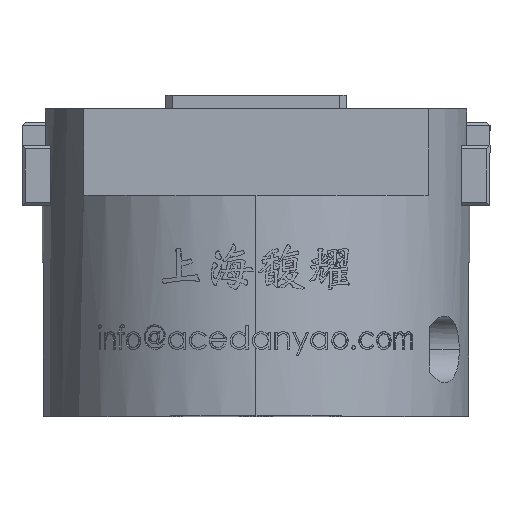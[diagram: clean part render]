
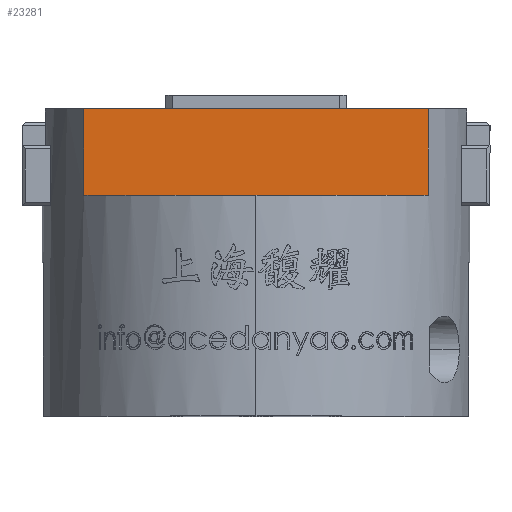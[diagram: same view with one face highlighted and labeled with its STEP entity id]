
A CAD part, top view. The second image highlights one B-rep face of the part: STEP entity #23281.
In plain terms, the highlighted planar face has unit normal (0, 0, 1).
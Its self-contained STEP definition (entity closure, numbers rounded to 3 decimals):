
#1891 = DIRECTION ( 'NONE',  ( 1., 0., 0. ) ) ;
#2511 = EDGE_CURVE ( 'NONE', #38335, #28882, #79406, .T. ) ;
#7661 = CARTESIAN_POINT ( 'NONE',  ( 25.749, 46., 19. ) ) ;
#18483 = ORIENTED_EDGE ( 'NONE', *, *, #20915, .F. ) ;
#18641 = LINE ( 'NONE', #50063, #85006 ) ;
#19658 = VERTEX_POINT ( 'NONE', #67233 ) ;
#20540 = ORIENTED_EDGE ( 'NONE', *, *, #52722, .F. ) ;
#20915 = EDGE_CURVE ( 'NONE', #19658, #45610, #52328, .T. ) ;
#23281 = ADVANCED_FACE ( 'NONE', ( #45000 ), #74550, .F. ) ;
#28297 = CARTESIAN_POINT ( 'NONE',  ( -25.749, 33., 19. ) ) ;
#28882 = VERTEX_POINT ( 'NONE', #44304 ) ;
#30435 = DIRECTION ( 'NONE',  ( 0., 1., 0. ) ) ;
#30582 = LINE ( 'NONE', #7661, #83448 ) ;
#34715 = VECTOR ( 'NONE', #76515, 1000. ) ;
#38335 = VERTEX_POINT ( 'NONE', #64030 ) ;
#40687 = DIRECTION ( 'NONE',  ( 0., -1., 0. ) ) ;
#41543 = DIRECTION ( 'NONE',  ( -1., 0., 0. ) ) ;
#44304 = CARTESIAN_POINT ( 'NONE',  ( 25.749, 46., 19. ) ) ;
#45000 = FACE_OUTER_BOUND ( 'NONE', #81333, .T. ) ;
#45610 = VERTEX_POINT ( 'NONE', #69090 ) ;
#48253 = CARTESIAN_POINT ( 'NONE',  ( 0., 46., 19. ) ) ;
#50063 = CARTESIAN_POINT ( 'NONE',  ( -25.749, 46., 19. ) ) ;
#52328 = LINE ( 'NONE', #75769, #34715 ) ;
#52722 = EDGE_CURVE ( 'NONE', #45610, #38335, #18641, .T. ) ;
#64030 = CARTESIAN_POINT ( 'NONE',  ( -25.749, 46., 19. ) ) ;
#67233 = CARTESIAN_POINT ( 'NONE',  ( 25.749, 33., 19. ) ) ;
#69090 = CARTESIAN_POINT ( 'NONE',  ( -25.749, 33., 19. ) ) ;
#72967 = ORIENTED_EDGE ( 'NONE', *, *, #76040, .F. ) ;
#74550 = PLANE ( 'NONE',  #82644 ) ;
#75769 = CARTESIAN_POINT ( 'NONE',  ( -25.749, 33., 19. ) ) ;
#76040 = EDGE_CURVE ( 'NONE', #28882, #19658, #30582, .T. ) ;
#76515 = DIRECTION ( 'NONE',  ( -1., 0., 0. ) ) ;
#79406 = LINE ( 'NONE', #48253, #81501 ) ;
#80177 = ORIENTED_EDGE ( 'NONE', *, *, #2511, .F. ) ;
#81271 = DIRECTION ( 'NONE',  ( 0., 0., -1. ) ) ;
#81333 = EDGE_LOOP ( 'NONE', ( #20540, #18483, #72967, #80177 ) ) ;
#81501 = VECTOR ( 'NONE', #1891, 1000. ) ;
#82644 = AXIS2_PLACEMENT_3D ( 'NONE', #28297, #81271, #41543 ) ;
#83448 = VECTOR ( 'NONE', #40687, 1000. ) ;
#85006 = VECTOR ( 'NONE', #30435, 1000. ) ;
